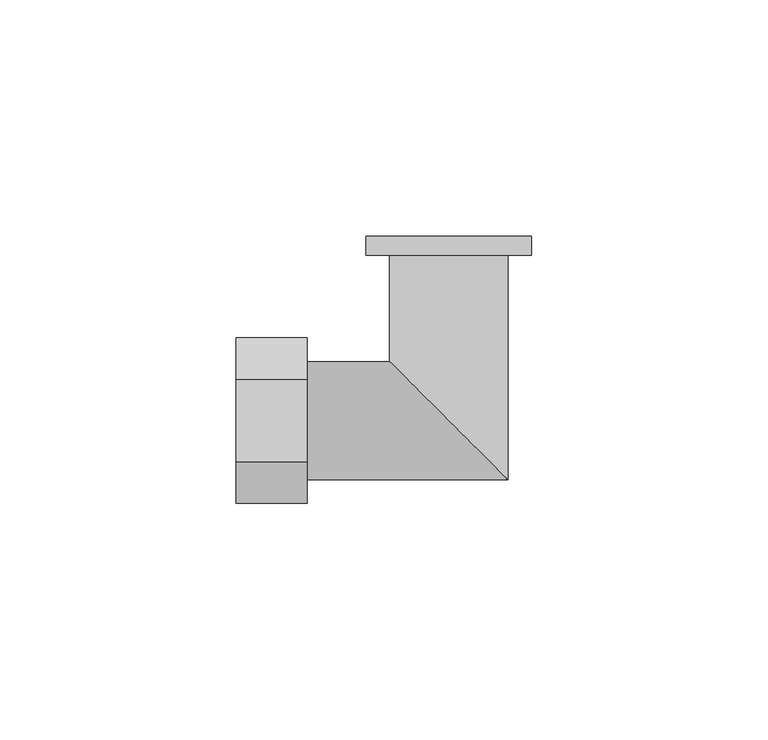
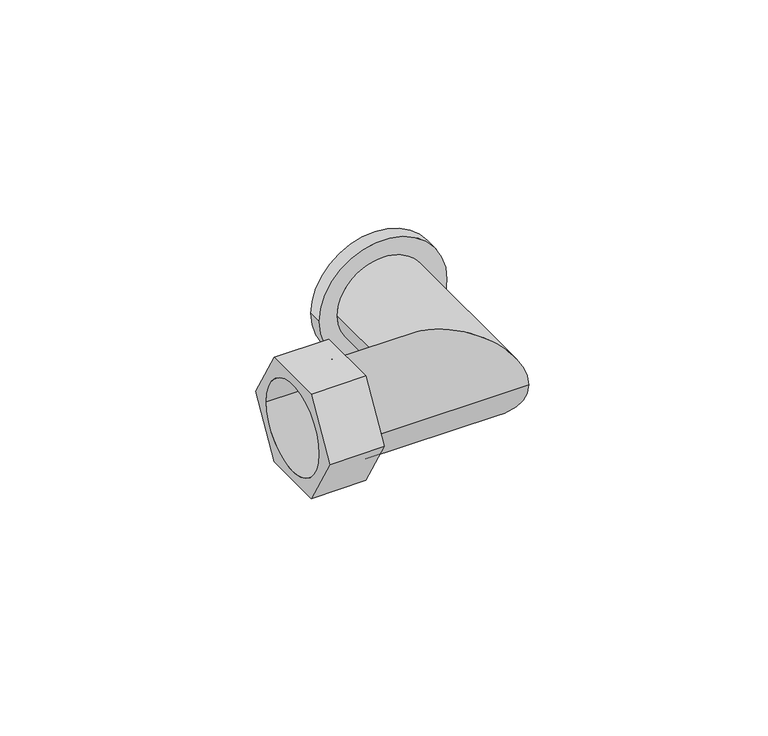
"""IFC4 building model written with IfcOpenShell, lengths in millimetres: pipe fitting geometry, БИР ПЕКС_КМП_Угольник_Резьба_Наружная : Угольник с наружной резьбой_КМП."""

from ifc_helpers import new_model, si_unit, point, frame, origin, origin_2d, place, context, project, spatial, polyline, circle_curve, ellipse_curve, trimmed, segment, composite_curve, outline, extrude, source, transform, mapped, element, save
from ifc_brep_helpers import plane_surface, cylinder_surface, revolved_surface, advanced_brep


def pipe_fitting_ef469d3b(model_context):
    return source(origin(), model_context, "Body", "SolidModel", [
        extrude(outline(polyline([(-8.75, -15.1554446), (-17.5, 0.0), (-8.75, 15.1554446), (8.75, 15.1554446), (17.5, 0.0), (8.75, -15.1554446), (-8.75, -15.1554446)]), holes=[composite_curve([segment(trimmed(circle_curve(origin_2d(), 12.5), [point((-12.5, 0.0))], [point((12.5, 0.0))], True, "CARTESIAN"), True, "CONTINUOUS"), segment(trimmed(circle_curve(origin_2d(), 12.5), [point((12.5, 0.0))], [point((-12.5, 0.0))], True, "CARTESIAN"), True, "CONTINUOUS")], self_intersect=False)]), frame((-45.0, 0.0, 0.0), z_axis=(1.0, 0.0, 0.0), x_axis=(0.0, 1.0, 0.0)), (0.0, 0.0, 1.0), 15.0),
        advanced_brep(
        [(-30.0, -12.5, 0.0), (-30.0, 12.5, 0.0), (-30.0, -12.0, 0.0), (-30.0, 12.0, 0.0), (12.5, -12.5, 0.0), (-12.5, 12.5, 0.0), (-17.5, 39.0, 0.0), (17.5, 39.0, 0.0), (12.0, 39.0, 0.0), (-12.0, 39.0, 0.0), (12.5, 35.0, 0.0), (-12.5, 35.0, 0.0), (-17.5, 35.0, 0.0), (17.5, 35.0, 0.0), (12.0, -12.0, 0.0), (-12.0, 12.0, 0.0), (-12.0, 35.0, 0.0), (12.0, 35.0, 0.0)],
        [
            (0, 1, circle_curve(frame((-30.0, 0.0, 0.0), z_axis=(-1.0, 0.0, 0.0), x_axis=(0.0, 1.0, 0.0)), 12.5)),
            (1, 0, circle_curve(frame((-30.0, 0.0, 0.0), z_axis=(-1.0, 0.0, 0.0), x_axis=(0.0, 1.0, 0.0)), 12.5)),
            (2, 3, circle_curve(frame((-30.0, 0.0, 0.0), z_axis=(1.0, 0.0, 0.0), x_axis=(0.0, 1.0, 0.0)), 12.0)),
            (3, 2, circle_curve(frame((-30.0, 0.0, 0.0), z_axis=(1.0, 0.0, 0.0), x_axis=(0.0, 1.0, 0.0)), 12.0)),
            (0, 4),
            (4, 5, ellipse_curve(frame((0.0, 0.0, 0.0), z_axis=(-0.7071067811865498, -0.7071067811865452, 0.0), x_axis=(-0.7071067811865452, 0.7071067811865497, 0.0)), 17.6776695, 12.5)),
            (5, 1),
            (5, 4, ellipse_curve(frame((0.0, 0.0, 0.0), z_axis=(-0.7071067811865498, -0.7071067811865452, 0.0), x_axis=(-0.7071067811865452, 0.7071067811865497, 0.0)), 17.6776695, 12.5)),
            (6, 7, circle_curve(frame((0.0, 39.0, 0.0), z_axis=(0.0, 1.0, 0.0), x_axis=(1.0, 0.0, 0.0)), 17.5)),
            (7, 6, circle_curve(frame((0.0, 39.0, 0.0), z_axis=(0.0, 1.0, 0.0), x_axis=(1.0, 0.0, 0.0)), 17.5)),
            (8, 9, circle_curve(frame((0.0, 39.0, 0.0), z_axis=(0.0, -1.0, 0.0), x_axis=(-1.0, 0.0, 0.0)), 12.0)),
            (9, 8, circle_curve(frame((0.0, 39.0, 0.0), z_axis=(0.0, -1.0, 0.0), x_axis=(-1.0, 0.0, 0.0)), 12.0)),
            (4, 10),
            (10, 11, circle_curve(frame((0.0, 35.0, 0.0), z_axis=(0.0, -1.0, 0.0), x_axis=(-1.0, 0.0, 0.0)), 12.5)),
            (11, 5),
            (11, 10, circle_curve(frame((0.0, 35.0, 0.0), z_axis=(0.0, -1.0, 0.0), x_axis=(-1.0, 0.0, 0.0)), 12.5)),
            (12, 13, circle_curve(frame((0.0, 35.0, 0.0), z_axis=(0.0, -1.0, 0.0), x_axis=(1.0, 0.0, 0.0)), 17.5)),
            (13, 12, circle_curve(frame((0.0, 35.0, 0.0), z_axis=(0.0, -1.0, 0.0), x_axis=(1.0, 0.0, 0.0)), 17.5)),
            (12, 6),
            (7, 13),
            (2, 14),
            (14, 15, ellipse_curve(frame((0.0, 0.0, 0.0), z_axis=(0.7071067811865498, 0.7071067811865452, 0.0), x_axis=(0.7071067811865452, -0.7071067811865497, 0.0)), 16.9705627, 12.0)),
            (15, 3),
            (15, 14, ellipse_curve(frame((0.0, 0.0, 0.0), z_axis=(0.7071067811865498, 0.7071067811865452, 0.0), x_axis=(0.7071067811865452, -0.7071067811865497, 0.0)), 16.9705627, 12.0)),
            (9, 16),
            (16, 15),
            (14, 17),
            (17, 8),
        ],
        [
            plane_surface(frame((-30.0, 0.0, 0.0), z_axis=(-1.0, 0.0, 0.0), x_axis=(0.0, 0.0, 1.0))),
            cylinder_surface(frame((-30.0, 0.0, 0.0), z_axis=(-1.0, 0.0, 0.0), x_axis=(0.0, 1.0, 0.0)), 12.5),
            plane_surface(frame((0.0, 39.0, 0.0), z_axis=(0.0, 1.0, 0.0), x_axis=(0.0, 0.0, 1.0))),
            cylinder_surface(frame((0.0, 0.0, 0.0), z_axis=(0.0, -1.0, 0.0), x_axis=(-1.0, 0.0, 0.0)), 12.5),
            plane_surface(frame((17.5, 35.0, 0.0), z_axis=(0.0, -1.0, 0.0), x_axis=(0.0, 0.0, 1.0))),
            cylinder_surface(frame((0.0, 39.0, 0.0), z_axis=(0.0, -1.0, 0.0), x_axis=(1.0, 0.0, 0.0)), 17.5),
            revolved_surface(polyline([(12.0, 12.0, 0.0), (-30.0, 12.0, 0.0)]), (-30.0, 0.0, 0.0), (1.0, 0.0, 0.0)),
            revolved_surface(polyline([(-12.0, 39.0, 0.0), (-12.0, -12.0, 0.0)]), (0.0, 0.0, 0.0), (0.0, 1.0, 0.0)),
        ],
        [
            (0, [[1, 2], [3, 4]]),
            (1, [[-1, 5, 6, 7]]),
            (1, [[-2, -7, 8, -5]]),
            (2, [[9, 10], [11, 12]]),
            (3, [[-6, 13, 14, 15]]),
            (3, [[-8, -15, 16, -13]]),
            (4, [[17, 18], [-14, -16]]),
            (5, [[-17, 19, -10, 20]]),
            (5, [[-18, -20, -9, -19]]),
            (6, [[-3, 21, 22, 23]]),
            (6, [[-4, -23, 24, -21]]),
            (7, [[-12, 25, 26, -22, 27, 28]]),
            (7, [[-11, -28, -27, -24, -26, -25]]),
        ],
    ),
    ])


if __name__ == "__main__":
    model = new_model("IFC4")
    model_context = context("Model", 3, world=origin())
    ifc_project = project(units=[si_unit("LENGTHUNIT", "METRE", prefix="MILLI")], contexts=[model_context])
    site = spatial("IfcSite", under=ifc_project)
    building = spatial("IfcBuilding", under=site)
    placement = place(None, origin())
    pipe_fitting_shape = pipe_fitting_ef469d3b(model_context)
    element("IfcPipeFitting", 1, ObjectType="БИР ПЕКС_КМП_Угольник_Резьба_Наружная : Угольник с наружной резьбой_КМП", at=placement, inside=building, context=model_context, shape_type="MappedRepresentation", body=[
        mapped(pipe_fitting_shape, transform((0.0, 0.0, 0.0), x_axis=(1.0, 0.0, 0.0), y_axis=(0.0, 1.0, 0.0), z_axis=(0.0, 0.0, 1.0))),
    ])
    save(model, "model.ifc")
